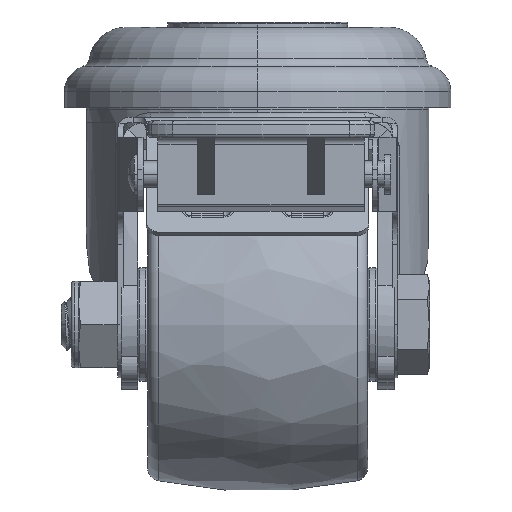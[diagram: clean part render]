
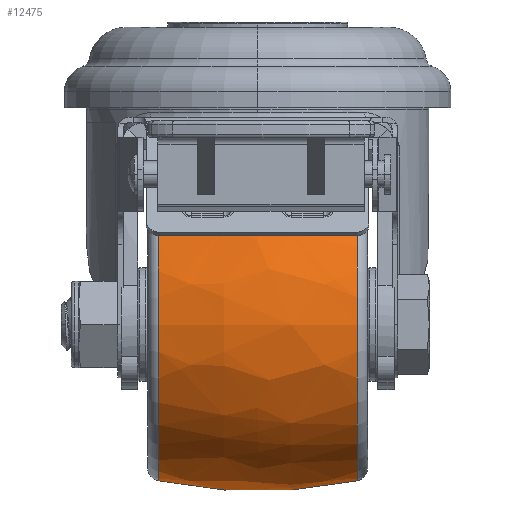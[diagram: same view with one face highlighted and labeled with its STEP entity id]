
A CAD part, left-side view. The second image highlights one B-rep face of the part: STEP entity #12475.
In plain terms, the highlighted free-form (B-spline) face has degree [3, 3] with [7, 4] control points.
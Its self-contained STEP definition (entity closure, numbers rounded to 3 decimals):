
#12003=CARTESIAN_POINT('',(-14.911,0.,0.));
#12004=DIRECTION('',(1.,0.,0.));
#12005=DIRECTION('',(0.,0.,-1.));
#12006=AXIS2_PLACEMENT_3D('',#12003,#12004,#12005);
#12013=CARTESIAN_POINT('',(0.,0.,47.595));
#12014=DIRECTION('',(0.,1.,0.));
#12015=DIRECTION('',(0.205,0.,-0.979));
#12016=AXIS2_PLACEMENT_3D('',#12013,#12014,#12015);
#12018=CARTESIAN_POINT('',(14.911,0.,0.));
#12019=DIRECTION('',(1.,0.,0.));
#12020=DIRECTION('',(0.,0.,-1.));
#12021=AXIS2_PLACEMENT_3D('',#12018,#12019,#12020);
#12023=CARTESIAN_POINT('',(0.,0.,
-47.595));
#12024=DIRECTION('',(0.,-1.,0.));
#12025=DIRECTION('',(0.205,0.,0.979));
#12026=AXIS2_PLACEMENT_3D('',#12023,#12024,#12025);
#12184=CARTESIAN_POINT('',(14.911,0.,-23.452));
#12186=VERTEX_POINT('',#12184);
#12187=CARTESIAN_POINT('',(-14.911,0.,-23.452));
#12188=VERTEX_POINT('',#12187);
#12218=CARTESIAN_POINT('',(14.911,0.,23.452));
#12220=VERTEX_POINT('',#12218);
#12221=CARTESIAN_POINT('',(-14.911,0.,23.452));
#12222=VERTEX_POINT('',#12221);
#12437=CARTESIAN_POINT('',(15.498,-1.465,
23.28));
#12438=CARTESIAN_POINT('',(5.247,-1.605,
25.516));
#12439=CARTESIAN_POINT('',(-5.247,-1.605,
25.516));
#12440=CARTESIAN_POINT('',(-15.498,-1.465,
23.28));
#12441=CARTESIAN_POINT('',(15.498,12.862,24.182));
#12442=CARTESIAN_POINT('',(5.247,14.097,26.504));
#12443=CARTESIAN_POINT('',(-5.247,14.097,
26.504));
#12444=CARTESIAN_POINT('',(-15.498,12.862,
24.182));
#12445=CARTESIAN_POINT('',(15.498,23.326,14.355));
#12446=CARTESIAN_POINT('',(5.247,25.567,15.734));
#12447=CARTESIAN_POINT('',(-5.247,25.567,
15.734));
#12448=CARTESIAN_POINT('',(-15.498,23.326,
14.355));
#12449=CARTESIAN_POINT('',(15.498,23.326,0.));
#12450=CARTESIAN_POINT('',(5.247,25.567,0.));
#12451=CARTESIAN_POINT('',(-5.247,25.567,0.));
#12452=CARTESIAN_POINT('',(-15.498,23.326,0.));
#12453=CARTESIAN_POINT('',(15.498,23.326,
-14.355));
#12454=CARTESIAN_POINT('',(5.247,25.567,
-15.734));
#12455=CARTESIAN_POINT('',(-5.247,25.567,
-15.734));
#12456=CARTESIAN_POINT('',(-15.498,23.326,
-14.355));
#12457=CARTESIAN_POINT('',(15.498,12.862,
-24.182));
#12458=CARTESIAN_POINT('',(5.247,14.097,
-26.504));
#12459=CARTESIAN_POINT('',(-5.247,14.097,
-26.504));
#12460=CARTESIAN_POINT('',(-15.498,12.862,
-24.182));
#12461=CARTESIAN_POINT('',(15.498,-1.465,
-23.28));
#12462=CARTESIAN_POINT('',(5.247,-1.605,
-25.516));
#12463=CARTESIAN_POINT('',(-5.247,-1.605,
-25.516));
#12464=CARTESIAN_POINT('',(-15.498,-1.465,
-23.28));
#12465=(BOUNDED_SURFACE()B_SPLINE_SURFACE(3,3,((#12437,#12438,#12439,#12440),(
#12441,#12442,#12443,#12444),(#12445,#12446,#12447,#12448),(#12449,#12450,
#12451,#12452),(#12453,#12454,#12455,#12456),(#12457,#12458,#12459,#12460),(
#12461,#12462,#12463,#12464)),.UNSPECIFIED.,.F.,.F.,.F.)B_SPLINE_SURFACE_WITH_KNOTS((4,3,4),(4,4),(0.,1.,2.),(0.,1.),.UNSPECIFIED.)GEOMETRIC_REPRESENTATION_ITEM()RATIONAL_B_SPLINE_SURFACE(((1.201,1.183,
1.183,1.201),(0.949,0.934,
0.934,0.949),(0.949,0.934,
0.934,0.949),(1.201,1.183,
1.183,1.201),(0.949,0.934,
0.934,0.949),(0.949,0.934,
0.934,0.949),(1.201,1.183,
1.183,1.201)))REPRESENTATION_ITEM('')SURFACE());
#12467=ORIENTED_EDGE('',*,*,#12466,.F.);
#12469=ORIENTED_EDGE('',*,*,#12468,.T.);
#12471=ORIENTED_EDGE('',*,*,#12470,.T.);
#12472=ORIENTED_EDGE('',*,*,#12430,.F.);
#12473=EDGE_LOOP('',(#12467,#12469,#12471,#12472));
#12474=FACE_OUTER_BOUND('',#12473,.F.);
#12475=ADVANCED_FACE('',(#12474),#12465,.T.);
#12007=CIRCLE('',#12006,23.452);
#12017=CIRCLE('',#12016,72.595);
#12022=CIRCLE('',#12021,23.452);
#12027=CIRCLE('',#12026,72.595);
#12430=EDGE_CURVE('',#12188,#12222,#12007,.T.);
#12466=EDGE_CURVE('',#12186,#12188,#12017,.T.);
#12468=EDGE_CURVE('',#12186,#12220,#12022,.T.);
#12470=EDGE_CURVE('',#12220,#12222,#12027,.T.);
